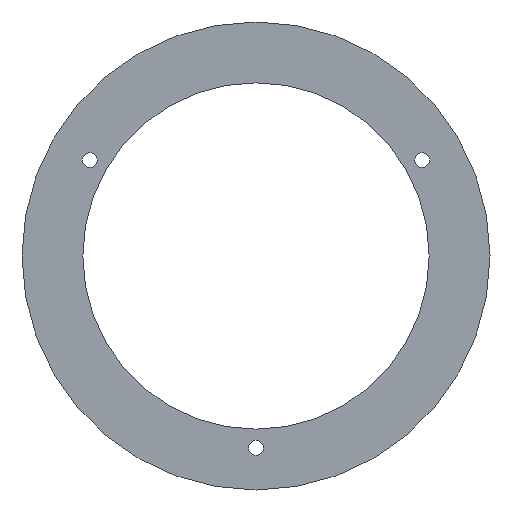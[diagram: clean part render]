
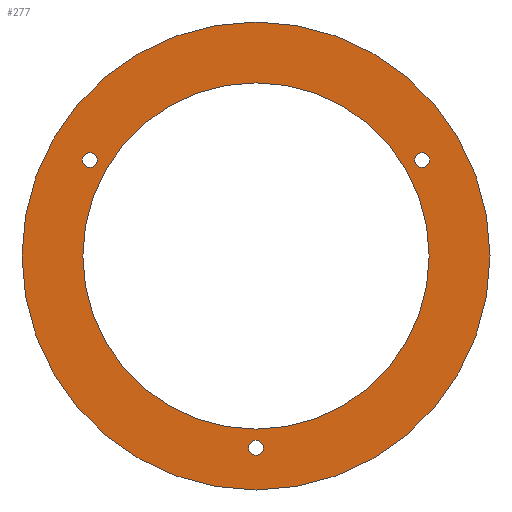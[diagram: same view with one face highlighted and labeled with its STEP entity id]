
A CAD part, front view. The second image highlights one B-rep face of the part: STEP entity #277.
In plain terms, the highlighted planar face has unit normal (0, -1, 0).
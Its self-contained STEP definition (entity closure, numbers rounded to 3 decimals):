
#1 = ORIENTED_EDGE ( 'NONE', *, *, #116, .F. ) ;
#7 = VERTEX_POINT ( 'NONE', #81 ) ;
#8 = CARTESIAN_POINT ( 'NONE',  ( 35.507, -1.5, 18.9 ) ) ;
#9 = CARTESIAN_POINT ( 'NONE',  ( 0., -1.5, 0. ) ) ;
#19 = CARTESIAN_POINT ( 'NONE',  ( 0., -1.5, -39.4 ) ) ;
#22 = CIRCLE ( 'NONE', #235, 1.6 ) ;
#29 = DIRECTION ( 'NONE',  ( 0., 1., 0. ) ) ;
#32 = CARTESIAN_POINT ( 'NONE',  ( 0., -1.5, 50. ) ) ;
#34 = CIRCLE ( 'NONE', #319, 37. ) ;
#35 = ORIENTED_EDGE ( 'NONE', *, *, #132, .T. ) ;
#37 = DIRECTION ( 'NONE',  ( 0., 1., 0. ) ) ;
#43 = VERTEX_POINT ( 'NONE', #8 ) ;
#44 = CARTESIAN_POINT ( 'NONE',  ( 0., -1.5, -41. ) ) ;
#55 = EDGE_CURVE ( 'NONE', #222, #406, #149, .T. ) ;
#57 = AXIS2_PLACEMENT_3D ( 'NONE', #334, #301, #372 ) ;
#63 = PLANE ( 'NONE',  #190 ) ;
#72 = EDGE_LOOP ( 'NONE', ( #252, #35 ) ) ;
#79 = CARTESIAN_POINT ( 'NONE',  ( 0., -1.5, 37. ) ) ;
#81 = CARTESIAN_POINT ( 'NONE',  ( 0., -1.5, -50. ) ) ;
#83 = CARTESIAN_POINT ( 'NONE',  ( 0., -1.5, -41. ) ) ;
#84 = EDGE_CURVE ( 'NONE', #299, #7, #308, .T. ) ;
#89 = CARTESIAN_POINT ( 'NONE',  ( 0., -1.5, -37. ) ) ;
#91 = ORIENTED_EDGE ( 'NONE', *, *, #201, .T. ) ;
#102 = CARTESIAN_POINT ( 'NONE',  ( 0., -1.5, 0. ) ) ;
#103 = VERTEX_POINT ( 'NONE', #265 ) ;
#112 = CIRCLE ( 'NONE', #57, 1.6 ) ;
#116 = EDGE_CURVE ( 'NONE', #7, #299, #366, .T. ) ;
#117 = EDGE_LOOP ( 'NONE', ( #234, #401 ) ) ;
#124 = FACE_BOUND ( 'NONE', #224, .T. ) ;
#125 = CARTESIAN_POINT ( 'NONE',  ( 35.507, -1.5, 20.5 ) ) ;
#128 = DIRECTION ( 'NONE',  ( 0., 0., 1. ) ) ;
#132 = EDGE_CURVE ( 'NONE', #406, #222, #112, .T. ) ;
#139 = DIRECTION ( 'NONE',  ( 0., 1., 0. ) ) ;
#143 = VERTEX_POINT ( 'NONE', #19 ) ;
#147 = CIRCLE ( 'NONE', #363, 37. ) ;
#149 = CIRCLE ( 'NONE', #384, 1.6 ) ;
#152 = ORIENTED_EDGE ( 'NONE', *, *, #84, .F. ) ;
#158 = DIRECTION ( 'NONE',  ( 0., 1., 0. ) ) ;
#159 = ORIENTED_EDGE ( 'NONE', *, *, #316, .T. ) ;
#165 = CIRCLE ( 'NONE', #249, 1.6 ) ;
#171 = EDGE_LOOP ( 'NONE', ( #152, #1 ) ) ;
#173 = CARTESIAN_POINT ( 'NONE',  ( -35.507, -1.5, 22.1 ) ) ;
#178 = VERTEX_POINT ( 'NONE', #79 ) ;
#185 = AXIS2_PLACEMENT_3D ( 'NONE', #9, #139, #404 ) ;
#186 = CARTESIAN_POINT ( 'NONE',  ( 0., -1.5, 0. ) ) ;
#190 = AXIS2_PLACEMENT_3D ( 'NONE', #251, #158, #314 ) ;
#195 = CARTESIAN_POINT ( 'NONE',  ( -35.507, -1.5, 18.9 ) ) ;
#196 = AXIS2_PLACEMENT_3D ( 'NONE', #44, #307, #298 ) ;
#198 = DIRECTION ( 'NONE',  ( 0., 0., 1. ) ) ;
#199 = EDGE_LOOP ( 'NONE', ( #408, #159 ) ) ;
#201 = EDGE_CURVE ( 'NONE', #103, #143, #276, .T. ) ;
#207 = ORIENTED_EDGE ( 'NONE', *, *, #262, .T. ) ;
#212 = DIRECTION ( 'NONE',  ( 0., 1., 0. ) ) ;
#217 = AXIS2_PLACEMENT_3D ( 'NONE', #102, #37, #198 ) ;
#221 = DIRECTION ( 'NONE',  ( 0., 1., 0. ) ) ;
#222 = VERTEX_POINT ( 'NONE', #173 ) ;
#224 = EDGE_LOOP ( 'NONE', ( #207, #91 ) ) ;
#234 = ORIENTED_EDGE ( 'NONE', *, *, #367, .T. ) ;
#235 = AXIS2_PLACEMENT_3D ( 'NONE', #83, #212, #342 ) ;
#247 = FACE_OUTER_BOUND ( 'NONE', #171, .T. ) ;
#249 = AXIS2_PLACEMENT_3D ( 'NONE', #419, #386, #128 ) ;
#251 = CARTESIAN_POINT ( 'NONE',  ( 0., -1.5, 0. ) ) ;
#252 = ORIENTED_EDGE ( 'NONE', *, *, #55, .T. ) ;
#262 = EDGE_CURVE ( 'NONE', #143, #103, #22, .T. ) ;
#265 = CARTESIAN_POINT ( 'NONE',  ( 0., -1.5, -42.6 ) ) ;
#276 = CIRCLE ( 'NONE', #196, 1.6 ) ;
#277 = ADVANCED_FACE ( 'NONE', ( #124, #389, #310, #349, #247 ), #63, .F. ) ;
#291 = CARTESIAN_POINT ( 'NONE',  ( -35.507, -1.5, 20.5 ) ) ;
#298 = DIRECTION ( 'NONE',  ( 0., 0., 1. ) ) ;
#299 = VERTEX_POINT ( 'NONE', #32 ) ;
#301 = DIRECTION ( 'NONE',  ( 0., 1., 0. ) ) ;
#305 = EDGE_CURVE ( 'NONE', #178, #348, #34, .T. ) ;
#307 = DIRECTION ( 'NONE',  ( 0., 1., 0. ) ) ;
#308 = CIRCLE ( 'NONE', #217, 50. ) ;
#309 = DIRECTION ( 'NONE',  ( 0., 0., 1. ) ) ;
#310 = FACE_BOUND ( 'NONE', #72, .T. ) ;
#312 = CARTESIAN_POINT ( 'NONE',  ( 0., -1.5, 0. ) ) ;
#314 = DIRECTION ( 'NONE',  ( 0., 0., 1. ) ) ;
#316 = EDGE_CURVE ( 'NONE', #348, #178, #147, .T. ) ;
#319 = AXIS2_PLACEMENT_3D ( 'NONE', #312, #29, #415 ) ;
#323 = DIRECTION ( 'NONE',  ( 0., 0., 1. ) ) ;
#330 = EDGE_CURVE ( 'NONE', #43, #373, #345, .T. ) ;
#334 = CARTESIAN_POINT ( 'NONE',  ( -35.507, -1.5, 20.5 ) ) ;
#342 = DIRECTION ( 'NONE',  ( 0., 0., 1. ) ) ;
#345 = CIRCLE ( 'NONE', #390, 1.6 ) ;
#348 = VERTEX_POINT ( 'NONE', #89 ) ;
#349 = FACE_BOUND ( 'NONE', #199, .T. ) ;
#351 = CARTESIAN_POINT ( 'NONE',  ( 35.507, -1.5, 22.1 ) ) ;
#363 = AXIS2_PLACEMENT_3D ( 'NONE', #186, #379, #309 ) ;
#366 = CIRCLE ( 'NONE', #185, 50. ) ;
#367 = EDGE_CURVE ( 'NONE', #373, #43, #165, .T. ) ;
#372 = DIRECTION ( 'NONE',  ( 0., 0., 1. ) ) ;
#373 = VERTEX_POINT ( 'NONE', #351 ) ;
#379 = DIRECTION ( 'NONE',  ( 0., 1., 0. ) ) ;
#384 = AXIS2_PLACEMENT_3D ( 'NONE', #291, #396, #323 ) ;
#386 = DIRECTION ( 'NONE',  ( 0., 1., 0. ) ) ;
#389 = FACE_BOUND ( 'NONE', #117, .T. ) ;
#390 = AXIS2_PLACEMENT_3D ( 'NONE', #125, #221, #417 ) ;
#396 = DIRECTION ( 'NONE',  ( 0., 1., 0. ) ) ;
#401 = ORIENTED_EDGE ( 'NONE', *, *, #330, .T. ) ;
#404 = DIRECTION ( 'NONE',  ( 0., 0., 1. ) ) ;
#406 = VERTEX_POINT ( 'NONE', #195 ) ;
#408 = ORIENTED_EDGE ( 'NONE', *, *, #305, .T. ) ;
#415 = DIRECTION ( 'NONE',  ( 0., 0., 1. ) ) ;
#417 = DIRECTION ( 'NONE',  ( 0., 0., 1. ) ) ;
#419 = CARTESIAN_POINT ( 'NONE',  ( 35.507, -1.5, 20.5 ) ) ;
